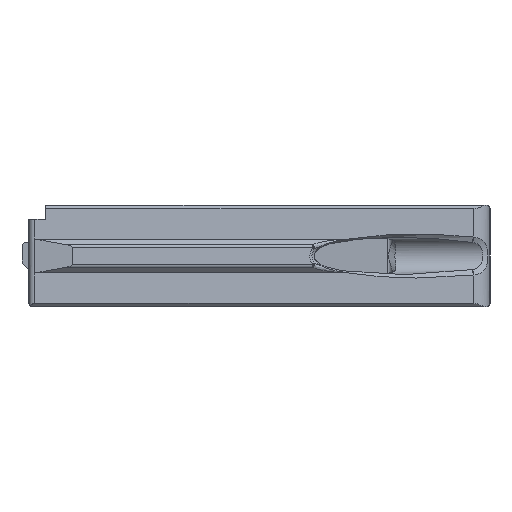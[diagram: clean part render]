
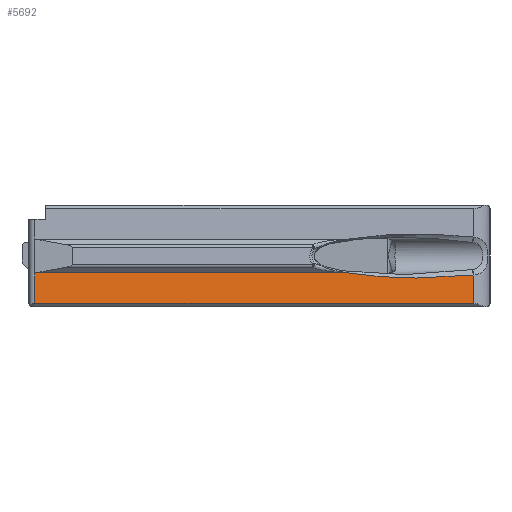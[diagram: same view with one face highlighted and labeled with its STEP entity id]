
A CAD part, front view. The second image highlights one B-rep face of the part: STEP entity #5692.
In plain terms, the highlighted planar face has unit normal (0.182, -0.983, 0).
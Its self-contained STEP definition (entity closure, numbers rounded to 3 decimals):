
#151=PLANE('',#6039);
#312=B_SPLINE_CURVE_WITH_KNOTS('',3,(#8051,#8052,#8053,#8054),
 .UNSPECIFIED.,.F.,.F.,(4,4),(0.519,0.724),
 .UNSPECIFIED.);
#320=B_SPLINE_CURVE_WITH_KNOTS('',3,(#8379,#8380,#8381,#8382),
 .UNSPECIFIED.,.F.,.F.,(4,4),(-0.797,-0.794),
 .UNSPECIFIED.);
#321=B_SPLINE_CURVE_WITH_KNOTS('',3,(#8384,#8385,#8386,#8387,#8388,#8389,
#8390,#8391,#8392,#8393,#8394,#8395,#8396),.UNSPECIFIED.,.F.,.F.,(4,3,3,
3,4),(0.777,1.326,1.875,2.974,
3.158),.UNSPECIFIED.);
#508=LINE('',#8189,#1031);
#520=LINE('',#8452,#1043);
#521=LINE('',#8454,#1044);
#522=LINE('',#8455,#1045);
#1031=VECTOR('',#6529,10.);
#1043=VECTOR('',#6551,10.);
#1044=VECTOR('',#6552,10.);
#1045=VECTOR('',#6553,10.);
#1625=FACE_OUTER_BOUND('',#1966,.T.);
#1966=EDGE_LOOP('',(#3981,#3982,#3983,#3984,#3985,#3986,#3987));
#2499=VERTEX_POINT('',#8030);
#2501=VERTEX_POINT('',#8042);
#2507=VERTEX_POINT('',#8187);
#2509=VERTEX_POINT('',#8378);
#2510=VERTEX_POINT('',#8383);
#2519=VERTEX_POINT('',#8451);
#2520=VERTEX_POINT('',#8453);
#3042=EDGE_CURVE('',#2501,#2499,#312,.F.);
#3053=EDGE_CURVE('',#2507,#2501,#508,.T.);
#3059=EDGE_CURVE('',#2509,#2499,#320,.T.);
#3060=EDGE_CURVE('',#2510,#2509,#321,.T.);
#3071=EDGE_CURVE('',#2519,#2507,#520,.T.);
#3072=EDGE_CURVE('',#2520,#2519,#521,.T.);
#3073=EDGE_CURVE('',#2510,#2520,#522,.T.);
#3981=ORIENTED_EDGE('',*,*,#3053,.F.);
#3982=ORIENTED_EDGE('',*,*,#3071,.F.);
#3983=ORIENTED_EDGE('',*,*,#3072,.F.);
#3984=ORIENTED_EDGE('',*,*,#3073,.F.);
#3985=ORIENTED_EDGE('',*,*,#3060,.T.);
#3986=ORIENTED_EDGE('',*,*,#3059,.T.);
#3987=ORIENTED_EDGE('',*,*,#3042,.F.);
#5692=ADVANCED_FACE('',(#1625),#151,.T.);
#6039=AXIS2_PLACEMENT_3D('',#8450,#6549,#6550);
#6529=DIRECTION('',(0.983,0.182,0.));
#6549=DIRECTION('center_axis',(0.182,-0.983,0.));
#6550=DIRECTION('ref_axis',(-0.983,-0.182,0.));
#6551=DIRECTION('',(0.,0.,1.));
#6552=DIRECTION('',(-0.983,-0.182,0.));
#6553=DIRECTION('',(0.,0.,-1.));
#8030=CARTESIAN_POINT('',(49.215,-12.553,-4.988));
#8042=CARTESIAN_POINT('',(47.897,-12.797,-5.));
#8051=CARTESIAN_POINT('Ctrl Pts',(49.215,-12.553,-4.988));
#8052=CARTESIAN_POINT('Ctrl Pts',(48.772,-12.635,-4.996));
#8053=CARTESIAN_POINT('Ctrl Pts',(48.33,-12.717,-5.));
#8054=CARTESIAN_POINT('Ctrl Pts',(47.897,-12.797,-5.));
#8187=CARTESIAN_POINT('',(-43.227,-29.672,-5.));
#8189=CARTESIAN_POINT('',(23.387,-17.336,-5.));
#8378=CARTESIAN_POINT('',(49.282,-12.54,-5.));
#8379=CARTESIAN_POINT('Ctrl Pts',(49.281,-12.541,-5.001));
#8380=CARTESIAN_POINT('Ctrl Pts',(49.259,-12.545,-4.997));
#8381=CARTESIAN_POINT('Ctrl Pts',(49.237,-12.549,-4.993));
#8382=CARTESIAN_POINT('Ctrl Pts',(49.214,-12.553,-4.989));
#8383=CARTESIAN_POINT('',(86.099,-5.722,-5.599));
#8384=CARTESIAN_POINT('Ctrl Pts',(86.099,-5.722,-5.599));
#8385=CARTESIAN_POINT('Ctrl Pts',(83.528,-6.199,-5.91));
#8386=CARTESIAN_POINT('Ctrl Pts',(80.706,-6.721,-6.145));
#8387=CARTESIAN_POINT('Ctrl Pts',(77.758,-7.267,-6.297));
#8388=CARTESIAN_POINT('Ctrl Pts',(74.809,-7.813,-6.45));
#8389=CARTESIAN_POINT('Ctrl Pts',(71.734,-8.383,-6.518));
#8390=CARTESIAN_POINT('Ctrl Pts',(68.679,-8.948,-6.498));
#8391=CARTESIAN_POINT('Ctrl Pts',(62.569,-10.08,-6.456));
#8392=CARTESIAN_POINT('Ctrl Pts',(56.543,-11.196,-6.058));
#8393=CARTESIAN_POINT('Ctrl Pts',(51.645,-12.103,-5.37));
#8394=CARTESIAN_POINT('Ctrl Pts',(50.824,-12.255,-5.255));
#8395=CARTESIAN_POINT('Ctrl Pts',(50.035,-12.401,-5.132));
#8396=CARTESIAN_POINT('Ctrl Pts',(49.281,-12.541,-5.001));
#8450=CARTESIAN_POINT('Origin',(90.,-5.,15.));
#8451=CARTESIAN_POINT('',(-43.227,-29.672,-14.));
#8452=CARTESIAN_POINT('',(-43.227,-29.672,7.5));
#8453=CARTESIAN_POINT('',(86.099,-5.722,-14.));
#8454=CARTESIAN_POINT('',(46.156,-13.119,-14.));
#8455=CARTESIAN_POINT('',(86.099,-5.722,15.));
